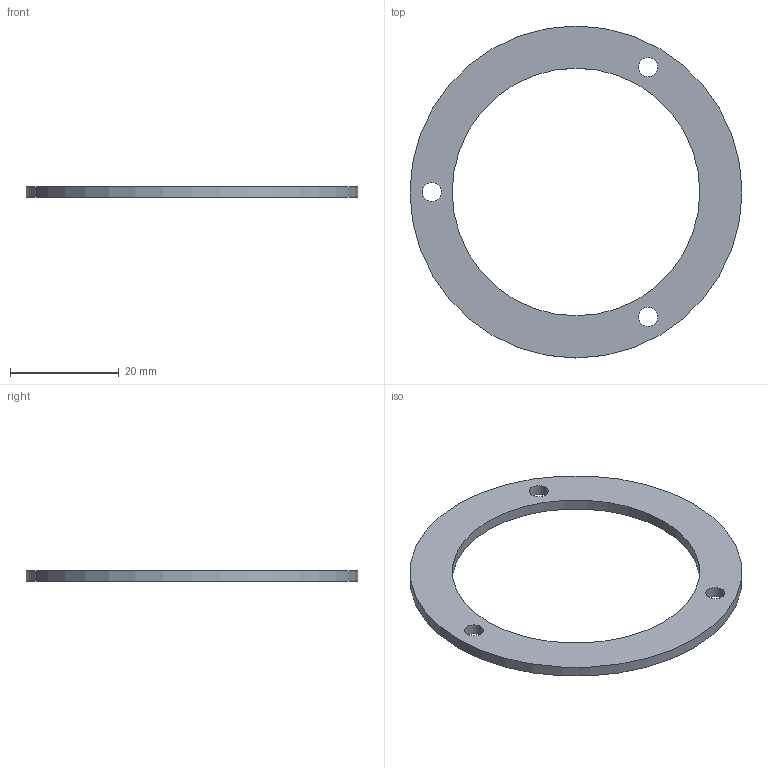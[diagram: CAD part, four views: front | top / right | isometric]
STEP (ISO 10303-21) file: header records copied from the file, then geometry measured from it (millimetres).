
FILE_DESCRIPTION(('FreeCAD Model'),'2;1');
FILE_NAME('Open CASCADE Shape Model','2025-03-29T11:41:42',( 'kicad StepUp'),('ksu MCAD'),'Open CASCADE STEP processor 7.6', 'FreeCAD','Unknown');
FILE_SCHEMA(('AUTOMOTIVE_DESIGN { 1 2 10303 214 0 1 1 1 }'));
Length unit declared in the file: millimetre
Products named in the file (1): PolarPattern
Bounding box: 61 x 61 x 2 mm (x, y, z)
Volume: 2535.3 mm3; surface area: 3270.4 mm2
Topology: 1 solids, 1 shells, 7 faces, 15 edges, 10 vertices
Faces by surface type: cylinder 5, plane 2
Full cylindrical faces by diameter (mm): 3.5 x3, 45.5 x1, 61 x1
Entity records: 237 total; most frequent: DIRECTION 41, CARTESIAN_POINT 33, ORIENTED_EDGE 30, AXIS2_PLACEMENT_3D 18, FACE_BOUND 15, EDGE_LOOP 15, EDGE_CURVE 15, VERTEX_POINT 10
